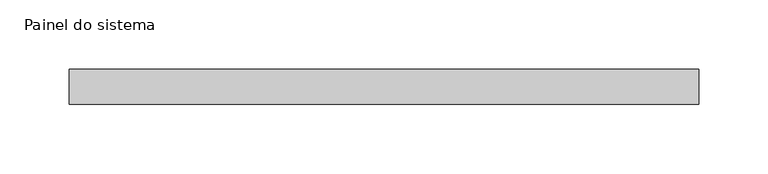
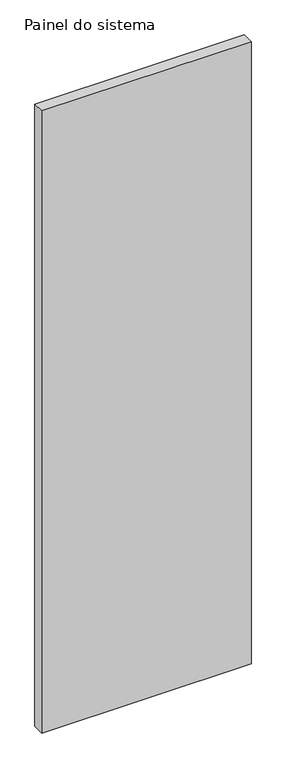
"""IFC4 building model written with IfcOpenShell, lengths in millimetres: plate geometry, Painel do sistema : Envidraçado."""

import ifcopenshell
import ifcopenshell.guid

model = None  # the IFC model being written
_history = None  # IfcOwnerHistory: only IFC2X3 demands one
_inside = {}  # id of a spatial element -> (the spatial element, [elements in it])
_under = {}  # id of a project, library or spatial element -> (it, [spatial elements below it])
_declared = {}  # id of a project -> (the project, [libraries it declares])
_typed = {}  # id of a type object -> (the type object, [elements of that type])
_made_of = {}  # id of a material, layer set ... -> (it, [elements and type objects made of it])


def new_model(schema):
    """Start an empty IFC model of exactly this schema.

    Asked for "IFC4X3", IfcOpenShell would pick the latest addendum, in which some entities
    have other attributes; the version numbers below select the first issue.
    IFC2X3 requires an IfcOwnerHistory on every rooted entity: one is made here for all.
    """
    global model, _history
    if schema == "IFC4X3":
        model = ifcopenshell.file(schema_version=(4, 3, 0, 0))
    else:
        model = ifcopenshell.file(schema=schema)
    _inside.clear()
    _under.clear()
    _declared.clear()
    _typed.clear()
    _made_of.clear()
    _history = None
    if model.schema == "IFC2X3":
        org = make("IfcOrganization", Name="unknown")
        user = make(
            "IfcPersonAndOrganization",
            ThePerson=make("IfcPerson", FamilyName="unknown"),
            TheOrganization=org,
        )
        app = make(
            "IfcApplication",
            ApplicationDeveloper=org,
            Version="unknown",
            ApplicationFullName="unknown",
            ApplicationIdentifier="unknown",
        )
        _history = make(
            "IfcOwnerHistory",
            OwningUser=user,
            OwningApplication=app,
            ChangeAction="ADDED",
            CreationDate=0,
        )
    return model


def make(cls, **values):
    """One entity of the class cls with the attributes given. An attribute that is None is left unset."""
    return model.create_entity(
        cls, **{name: value for name, value in values.items() if value is not None}
    )


def rooted(cls, **values):
    """An entity with a GlobalId (a new one), such as an element, a storey or a relation."""
    return make(cls, GlobalId=ifcopenshell.guid.new(), OwnerHistory=_history, **values)


def si_unit(unit_type, name, prefix=None):
    """IfcSIUnit, for example si_unit("LENGTHUNIT", "METRE", prefix="MILLI")."""
    return make("IfcSIUnit", UnitType=unit_type, Prefix=prefix, Name=name)


def assignment(units):
    """IfcUnitAssignment: the units of a project."""
    return None if units is None else make("IfcUnitAssignment", Units=units)


def point(xyz):
    """IfcCartesianPoint."""
    return None if xyz is None else make("IfcCartesianPoint", Coordinates=xyz)


def direction(xyz):
    """IfcDirection."""
    return None if xyz is None else make("IfcDirection", DirectionRatios=xyz)


def frame(location, z_axis=None, x_axis=None):
    """IfcAxis2Placement3D, a coordinate frame: its origin and axes. An axis left out is left unset."""
    return make(
        "IfcAxis2Placement3D",
        Location=point(location),
        Axis=direction(z_axis),
        RefDirection=direction(x_axis),
    )


def origin():
    """The frame at (0, 0, 0) with its axes left unset."""
    return frame((0.0, 0.0, 0.0))


def origin_with_axes():
    """The frame at (0, 0, 0) with the z axis (0, 0, 1) and the x axis (1, 0, 0) written out."""
    return frame((0.0, 0.0, 0.0), z_axis=(0.0, 0.0, 1.0), x_axis=(1.0, 0.0, 0.0))


def place(relative_to, where):
    """IfcLocalPlacement: puts the frame where relative to a parent placement (None: the world)."""
    return make(
        "IfcLocalPlacement", PlacementRelTo=relative_to, RelativePlacement=where
    )


def context(
    kind, dimensions, precision=None, world=None, true_north=None, identifier=None
):
    """IfcGeometricRepresentationContext, for example the 3D "Model" context."""
    return make(
        "IfcGeometricRepresentationContext",
        ContextIdentifier=identifier,
        ContextType=kind,
        CoordinateSpaceDimension=dimensions,
        Precision=precision,
        WorldCoordinateSystem=world,
        TrueNorth=true_north,
    )


def project(units=None, contexts=None):
    """IfcProject with its units and contexts."""
    return rooted(
        "IfcProject",
        Name="project",
        RepresentationContexts=contexts,
        UnitsInContext=assignment(units),
    )


def spatial(cls, under=None, at=None, **own):
    """A site, building, storey or space (cls), placed at a placement, below another one or the project."""
    s = rooted(cls, ObjectPlacement=at, **own)
    if under is not None:
        _under.setdefault(under.id(), (under, []))[1].append(s)
    return s


def polyline(points):
    """IfcPolyline through the points."""
    return make("IfcPolyline", Points=[point(p) for p in points])


def outline(outer, holes=None, kind="AREA"):
    """IfcArbitraryClosedProfileDef: a profile drawn as a closed curve; with holes, ...WithVoids."""
    if holes is None:
        return make("IfcArbitraryClosedProfileDef", ProfileType=kind, OuterCurve=outer)
    return make(
        "IfcArbitraryProfileDefWithVoids",
        ProfileType=kind,
        OuterCurve=outer,
        InnerCurves=holes,
    )


def extrude(swept, where, along, depth):
    """IfcExtrudedAreaSolid: the profile swept, set in the frame where, extruded along a direction by depth."""
    return make(
        "IfcExtrudedAreaSolid",
        SweptArea=swept,
        Position=where,
        ExtrudedDirection=direction(along),
        Depth=depth,
    )


def shape(context_of_items, identifier, shape_type, items):
    """IfcShapeRepresentation: the items that make up one representation, for example the "Body"."""
    return make(
        "IfcShapeRepresentation",
        ContextOfItems=context_of_items,
        RepresentationIdentifier=identifier,
        RepresentationType=shape_type,
        Items=items,
    )


def source(mapping_origin, context_of_items, identifier, shape_type, items):
    """IfcRepresentationMap: a shape defined once, which mapped items show again and again."""
    return make(
        "IfcRepresentationMap",
        MappingOrigin=mapping_origin,
        MappedRepresentation=shape(context_of_items, identifier, shape_type, items),
    )


def transform(
    local_origin,
    x_axis=None,
    y_axis=None,
    z_axis=None,
    scale=None,
    scale2=None,
    scale3=None,
    uniform=True,
):
    """IfcCartesianTransformationOperator3D, or its non-uniform kind. x_axis, y_axis, z_axis: its Axis1, 2, 3."""
    if uniform:
        return make(
            "IfcCartesianTransformationOperator3D",
            Axis1=direction(x_axis),
            Axis2=direction(y_axis),
            LocalOrigin=point(local_origin),
            Scale=scale,
            Axis3=direction(z_axis),
        )
    return make(
        "IfcCartesianTransformationOperator3DnonUniform",
        Axis1=direction(x_axis),
        Axis2=direction(y_axis),
        LocalOrigin=point(local_origin),
        Scale=scale,
        Axis3=direction(z_axis),
        Scale2=scale2,
        Scale3=scale3,
    )


def mapped(mapping_source, mapping_target):
    """IfcMappedItem: shows the shape of a source again, moved by a transform."""
    return make(
        "IfcMappedItem", MappingSource=mapping_source, MappingTarget=mapping_target
    )


def made_of(thing, what):
    """Note that an element or type object is made of a material, layer set ...; save() writes the relation."""
    if what is not None:
        _made_of.setdefault(what.id(), (what, []))[1].append(thing)
    return thing


def element(
    cls,
    number,
    at=None,
    inside=None,
    cuts=None,
    type_object=None,
    material=None,
    context=None,
    identifier="Body",
    shape_type=None,
    held_by="IfcProductDefinitionShape",
    body=None,
    shapes=None,
    **own,
):
    """One element of the class cls, such as IfcWall. Its Tag is "e" and its number.

    at: its placement. inside: the storey or other place that contains it. cuts: it is an
    opening in that element (IfcRelVoidsElement). A single representation is given by context,
    identifier, shape_type and body (its items); several are given by shapes. held_by: the class
    of the entity that holds the representations. save() writes the other relations.
    """
    e = rooted(cls, Tag="e%d" % number, ObjectPlacement=at, **own)
    if body is not None:
        shapes = [shape(context, identifier, shape_type, body)]
    if shapes is not None:
        e.Representation = make(held_by, Representations=shapes)
    if inside is not None:
        _inside.setdefault(inside.id(), (inside, []))[1].append(e)
    if cuts is not None:
        rooted(
            "IfcRelVoidsElement", RelatingBuildingElement=cuts, RelatedOpeningElement=e
        )
    if type_object is not None:
        _typed.setdefault(type_object.id(), (type_object, []))[1].append(e)
    return made_of(e, material)


def aggregate(whole, parts):
    """IfcRelAggregates: a whole, such as a stair, and the parts it consists of."""
    return rooted("IfcRelAggregates", RelatingObject=whole, RelatedObjects=parts)


def save(model, path):
    """Write the relations noted so far, then the file.

    IfcRelAggregates (storeys below a building ...), IfcRelContainedInSpatialStructure (elements
    in a storey), IfcRelDefinesByType, IfcRelAssociatesMaterial and IfcRelDeclares: one each for
    every whole, place, type object, material and project.
    """
    for whole, parts in _under.values():
        aggregate(whole, parts)
    for where, things in _inside.values():
        rooted(
            "IfcRelContainedInSpatialStructure",
            RelatedElements=things,
            RelatingStructure=where,
        )
    for kind, things in _typed.values():
        rooted("IfcRelDefinesByType", RelatedObjects=things, RelatingType=kind)
    for what, things in _made_of.values():
        rooted("IfcRelAssociatesMaterial", RelatedObjects=things, RelatingMaterial=what)
    for by, libraries in _declared.values():
        rooted("IfcRelDeclares", RelatingContext=by, RelatedDefinitions=libraries)
    model.write(path)


def painel_do_sistema_e9a9faf6(model_context):
    return source(origin(), model_context, "Body", "SweptSolid", [
        extrude(outline(polyline([(226.8692455, 24.5), (-226.8692455, 24.5), (-226.8692455, 49.5), (226.8692455, 49.5), (226.8692455, 24.5)])), origin_with_axes(), (0.0, 0.0, 1.0), 1425.0),
    ])


if __name__ == "__main__":
    model = new_model("IFC4")
    model_context = context("Model", 3, world=origin())
    ifc_project = project(units=[si_unit("LENGTHUNIT", "METRE", prefix="MILLI")], contexts=[model_context])
    site = spatial("IfcSite", under=ifc_project)
    building = spatial("IfcBuilding", under=site)
    placement = place(None, origin())
    painel_do_sistema_shape = painel_do_sistema_e9a9faf6(model_context)
    element("IfcPlate", 1, ObjectType="Painel do sistema : Envidraçado", at=placement, inside=building, context=model_context, shape_type="MappedRepresentation", body=[
        mapped(painel_do_sistema_shape, transform((0.0, 0.0, 0.0), x_axis=(1.0, 0.0, 0.0), y_axis=(0.0, 1.0, 0.0), z_axis=(0.0, 0.0, 1.0))),
    ])
    save(model, "model.ifc")
